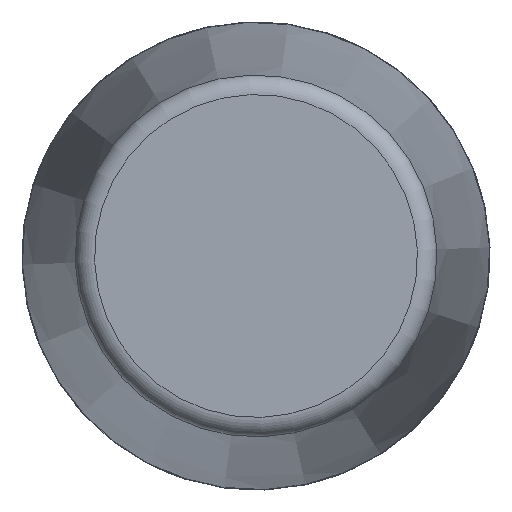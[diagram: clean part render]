
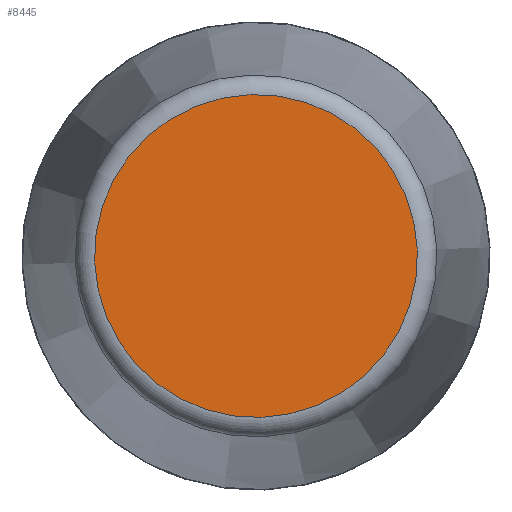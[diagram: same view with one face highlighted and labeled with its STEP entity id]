
A CAD part, front view. The second image highlights one B-rep face of the part: STEP entity #8445.
In plain terms, the highlighted planar face has unit normal (0, -1, 0) as drawn and (1, 0, 0) by its records, which use the part's own axes.
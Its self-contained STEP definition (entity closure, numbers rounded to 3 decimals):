
#2383=PLANE('',#8780);
#2931=FACE_OUTER_BOUND('',#3462,.T.);
#3462=EDGE_LOOP('',(#7958));
#3489=CIRCLE('',#8776,41.374);
#4313=VERTEX_POINT('',#15918);
#5531=EDGE_CURVE('',#4313,#4313,#3489,.T.);
#7958=ORIENTED_EDGE('',*,*,#5531,.F.);
#8445=ADVANCED_FACE('',(#2931),#2383,.T.);
#8776=AXIS2_PLACEMENT_3D('',#15919,#10021,#10022);
#8780=AXIS2_PLACEMENT_3D('',#15925,#10029,#10030);
#10021=DIRECTION('center_axis',(-1.,0.,0.));
#10022=DIRECTION('ref_axis',(0.,0.,
1.));
#10029=DIRECTION('center_axis',(1.,0.,0.));
#10030=DIRECTION('ref_axis',(0.,0.,-1.));
#15918=CARTESIAN_POINT('',(220.,0.,-41.374));
#15919=CARTESIAN_POINT('Origin',(220.,0.,0.));
#15925=CARTESIAN_POINT('Origin',(220.,0.,0.));
